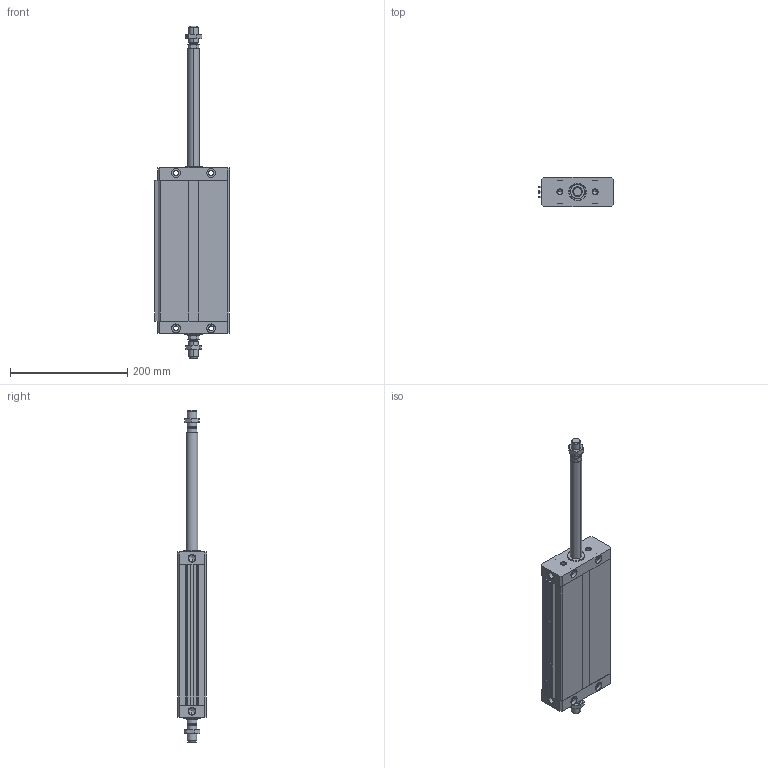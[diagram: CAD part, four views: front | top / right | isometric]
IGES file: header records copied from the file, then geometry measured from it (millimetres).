
Global section: file name: No Iges File Name specified; native system: Autodesk Inventor 2011; preprocessor: AutoDesk Inventor Iges Exporter R2011; author: airolcr1; date: 20101213.153552; units: millimetre
Bounding box: 126.75 x 50 x 566 mm (x, y, z)
Volume: 1153517.9 mm3; surface area: 257660.2 mm2
Topology: 6 solids, 6 shells, 280 faces, 664 edges, 396 vertices
Faces by surface type: bspline 114, plane 98, cone 36, cylinder 18, revolution 14
